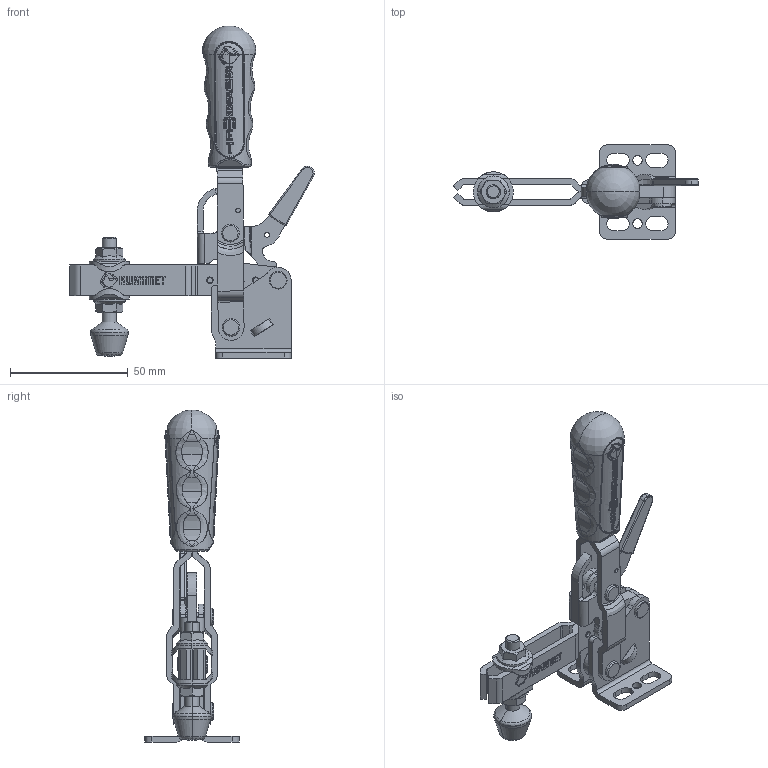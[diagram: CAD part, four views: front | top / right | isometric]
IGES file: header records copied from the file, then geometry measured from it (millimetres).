
Start section: 3D InterOp IGES (v. 2020 1.0.1), Spatial Corp. Copyright (c) 1999-2017.
Global section: file name: 211-2-l.igs; native system: Spatial Corp.; preprocessor: 3D InterOp ACIS/IGES; author: TraceParts; organization: TraceParts S.A.; date: 20250129.143129; units: millimetre
Bounding box: 103.8 x 40 x 141 mm (x, y, z)
Surface area: 29361.4 mm2 (no closed solid volume)
Topology: 0 solids, 0 shells, 2328 faces, 19238 edges, 19212 vertices
Faces by surface type: revolution 967, bspline 742, extrusion 619
